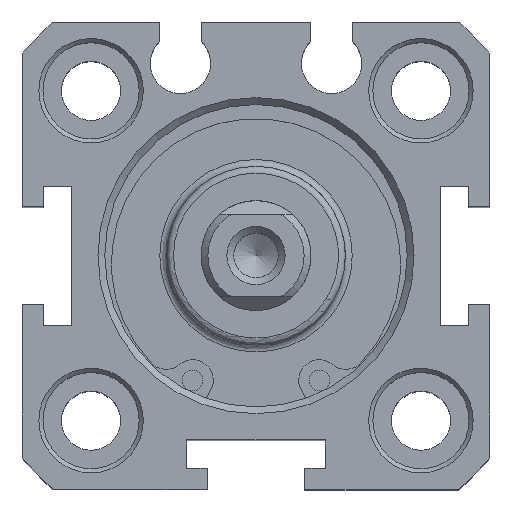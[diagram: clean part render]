
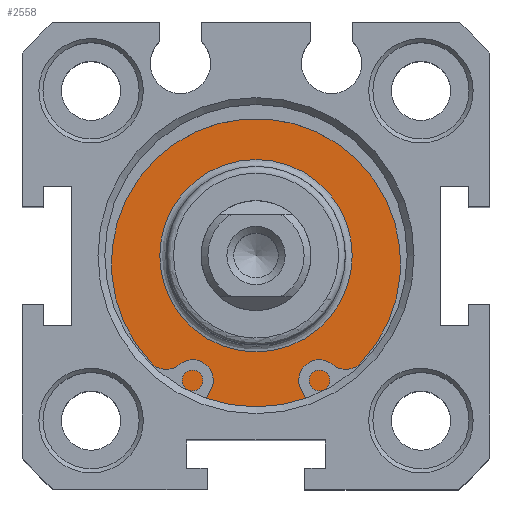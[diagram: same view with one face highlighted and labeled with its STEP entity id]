
A CAD part, top view. The second image highlights one B-rep face of the part: STEP entity #2558.
In plain terms, the highlighted planar face has unit normal (0, 0, 1).
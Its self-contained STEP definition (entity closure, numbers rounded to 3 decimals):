
#2507=CARTESIAN_POINT('',(0.24,8.683,26.8));
#2508=VERTEX_POINT('',#2507);
#2509=CARTESIAN_POINT('',(0.24,1.683,26.8));
#2510=DIRECTION('',(0.0,0.0,1.0));
#2511=DIRECTION('',(0.0,-1.0,0.0));
#2512=AXIS2_PLACEMENT_3D('',#2509,#2510,#2511);
#2513=CIRCLE('',#2512,7.);
#2514=EDGE_CURVE('',#2508,#2508,#2513,.T.);
#2539=CARTESIAN_POINT('',(0.24,10.433,26.8));
#2540=DIRECTION('',(0.0,0.0,1.0));
#2541=DIRECTION('',(1.0,0.0,0.0));
#2542=AXIS2_PLACEMENT_3D('',#2539,#2540,#2541);
#2543=PLANE('',#2542);
#2544=CARTESIAN_POINT('',(0.24,12.683,26.8));
#2545=VERTEX_POINT('',#2544);
#2546=CARTESIAN_POINT('',(0.24,1.683,26.8));
#2547=DIRECTION('',(0.0,0.0,-1.0));
#2548=DIRECTION('',(0.0,1.0,0.0));
#2549=AXIS2_PLACEMENT_3D('',#2546,#2547,#2548);
#2550=CIRCLE('',#2549,11.0);
#2551=EDGE_CURVE('',#2545,#2545,#2550,.T.);
#2552=ORIENTED_EDGE('',*,*,#2551,.F.);
#2553=EDGE_LOOP('',(#2552));
#2554=FACE_OUTER_BOUND('',#2553,.T.);
#2555=ORIENTED_EDGE('',*,*,#2514,.F.);
#2556=EDGE_LOOP('',(#2555));
#2557=FACE_BOUND('',#2556,.T.);
#2558=ADVANCED_FACE('',(#2554,#2557),#2543,.T.);
